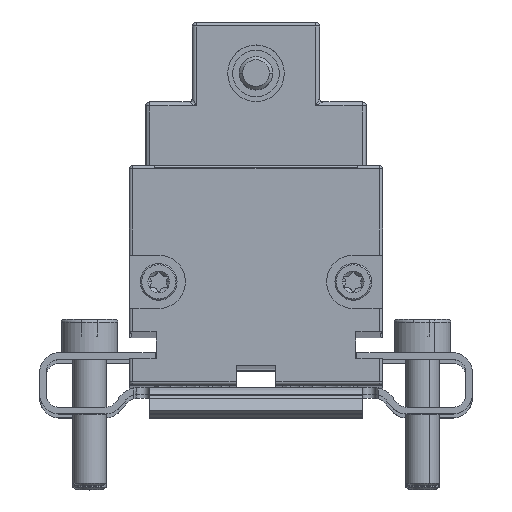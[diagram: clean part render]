
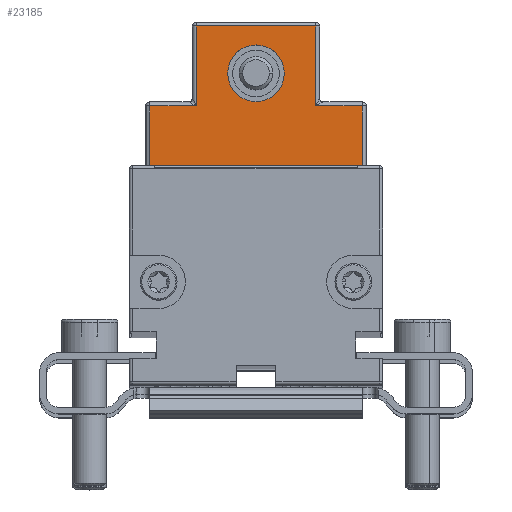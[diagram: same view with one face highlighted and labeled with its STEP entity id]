
A CAD part, top view. The second image highlights one B-rep face of the part: STEP entity #23185.
In plain terms, the highlighted planar face has unit normal (0, 0, 1).
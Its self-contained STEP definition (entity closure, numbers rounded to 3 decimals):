
#3613 = CARTESIAN_POINT ( 'NONE',  ( -15.95, 31.2, 104.1 ) ) ;
#3614 = DIRECTION ( 'NONE',  ( -1., 0., 0. ) ) ;
#3615 = VECTOR ( 'NONE', #3614, 1000. ) ;
#3616 = CARTESIAN_POINT ( 'NONE',  ( -15.95, 31.2, 104.1 ) ) ;
#3617 = LINE ( 'NONE', #3616, #3615 ) ;
#3619 = CARTESIAN_POINT ( 'NONE',  ( -9.75, 31.2, 104.1 ) ) ;
#3663 = CARTESIAN_POINT ( 'NONE',  ( 0., 51.75, 104.1 ) ) ;
#3664 = DIRECTION ( 'NONE',  ( 0., 1., 0. ) ) ;
#3665 = DIRECTION ( 'NONE',  ( 0., 0., 1. ) ) ;
#3666 = CARTESIAN_POINT ( 'NONE',  ( 0., 47.5, 104.1 ) ) ;
#3667 = AXIS2_PLACEMENT_3D ( 'NONE', #3666, #3665, #3664 ) ;
#3668 = CIRCLE ( 'NONE', #3667, 4.25 ) ;
#3670 = CARTESIAN_POINT ( 'NONE',  ( 0., 43.25, 104.1 ) ) ;
#5278 = DIRECTION ( 'NONE',  ( 0., -1., 0. ) ) ;
#5279 = VECTOR ( 'NONE', #5278, 1000. ) ;
#5280 = CARTESIAN_POINT ( 'NONE',  ( -15.95, 31.3, 104.1 ) ) ;
#5281 = LINE ( 'NONE', #5280, #5279 ) ;
#5282 = CARTESIAN_POINT ( 'NONE',  ( -15.95, 42.6, 104.1 ) ) ;
#5283 = CARTESIAN_POINT ( 'NONE',  ( -8.95, 42.6, 104.1 ) ) ;
#5284 = DIRECTION ( 'NONE',  ( -1., 0., 0. ) ) ;
#5285 = VECTOR ( 'NONE', #5284, 1000. ) ;
#5286 = CARTESIAN_POINT ( 'NONE',  ( -16.55, 42.6, 104.1 ) ) ;
#5287 = LINE ( 'NONE', #5286, #5285 ) ;
#5293 = CARTESIAN_POINT ( 'NONE',  ( 8.95, 54.6, 104.1 ) ) ;
#5310 = FACE_OUTER_BOUND ( 'NONE', #23192, .T. ) ;
#5311 = FACE_BOUND ( 'NONE', #23187, .T. ) ;
#5328 = CARTESIAN_POINT ( 'NONE',  ( 9.75, 31., 104.1 ) ) ;
#5329 = DIRECTION ( 'NONE',  ( -1., 0., 0. ) ) ;
#5330 = VECTOR ( 'NONE', #5329, 1000. ) ;
#5331 = CARTESIAN_POINT ( 'NONE',  ( 9.75, 31., 104.1 ) ) ;
#5332 = LINE ( 'NONE', #5331, #5330 ) ;
#5333 = CARTESIAN_POINT ( 'NONE',  ( -9.75, 31., 104.1 ) ) ;
#5334 = DIRECTION ( 'NONE',  ( 0., 1., 0. ) ) ;
#5335 = VECTOR ( 'NONE', #5334, 1000. ) ;
#5336 = CARTESIAN_POINT ( 'NONE',  ( -9.75, 31., 104.1 ) ) ;
#5337 = LINE ( 'NONE', #5336, #5335 ) ;
#5348 = DIRECTION ( 'NONE',  ( 0., 1., 0. ) ) ;
#5349 = DIRECTION ( 'NONE',  ( 0., 0., 1. ) ) ;
#5350 = AXIS2_PLACEMENT_3D ( 'NONE', #5356, #5349, #5348 ) ;
#5351 = CIRCLE ( 'NONE', #5350, 4.25 ) ;
#5352 = DIRECTION ( 'NONE',  ( 0., -1., 0. ) ) ;
#5353 = DIRECTION ( 'NONE',  ( 0., 0., -1. ) ) ;
#5354 = CARTESIAN_POINT ( 'NONE',  ( -15.25, 31.3, 104.1 ) ) ;
#5355 = AXIS2_PLACEMENT_3D ( 'NONE', #5354, #5353, #5352 ) ;
#5356 = CARTESIAN_POINT ( 'NONE',  ( 0., 47.5, 104.1 ) ) ;
#5357 = PLANE ( 'NONE',  #5355 ) ;
#5436 = DIRECTION ( 'NONE',  ( 0., -1., 0. ) ) ;
#5438 = VECTOR ( 'NONE', #5436, 1000. ) ;
#5439 = CARTESIAN_POINT ( 'NONE',  ( -8.95, 31.3, 104.1 ) ) ;
#5440 = LINE ( 'NONE', #5439, #5438 ) ;
#5442 = CARTESIAN_POINT ( 'NONE',  ( -8.95, 54.6, 104.1 ) ) ;
#5443 = DIRECTION ( 'NONE',  ( -1., 0., 0. ) ) ;
#5444 = VECTOR ( 'NONE', #5443, 1000. ) ;
#5445 = CARTESIAN_POINT ( 'NONE',  ( -15.25, 54.6, 104.1 ) ) ;
#5450 = LINE ( 'NONE', #5445, #5444 ) ;
#5484 = DIRECTION ( 'NONE',  ( 0., 1., 0. ) ) ;
#5485 = VECTOR ( 'NONE', #5484, 1000. ) ;
#5486 = CARTESIAN_POINT ( 'NONE',  ( 8.95, 55.2, 104.1 ) ) ;
#5487 = LINE ( 'NONE', #5486, #5485 ) ;
#5488 = CARTESIAN_POINT ( 'NONE',  ( 8.95, 42.6, 104.1 ) ) ;
#5489 = DIRECTION ( 'NONE',  ( -1., 0., 0. ) ) ;
#5490 = VECTOR ( 'NONE', #5489, 1000. ) ;
#5491 = CARTESIAN_POINT ( 'NONE',  ( -15.25, 42.6, 104.1 ) ) ;
#5492 = LINE ( 'NONE', #5491, #5490 ) ;
#5493 = CARTESIAN_POINT ( 'NONE',  ( 15.95, 42.6, 104.1 ) ) ;
#5494 = DIRECTION ( 'NONE',  ( 0., 1., 0. ) ) ;
#5495 = VECTOR ( 'NONE', #5494, 1000. ) ;
#5496 = CARTESIAN_POINT ( 'NONE',  ( 15.95, 31.3, 104.1 ) ) ;
#5497 = LINE ( 'NONE', #5496, #5495 ) ;
#5498 = CARTESIAN_POINT ( 'NONE',  ( 15.95, 31.2, 104.1 ) ) ;
#5499 = DIRECTION ( 'NONE',  ( -1., 0., 0. ) ) ;
#5500 = VECTOR ( 'NONE', #5499, 1000. ) ;
#5501 = CARTESIAN_POINT ( 'NONE',  ( -15.95, 31.2, 104.1 ) ) ;
#5502 = LINE ( 'NONE', #5501, #5500 ) ;
#5503 = CARTESIAN_POINT ( 'NONE',  ( 9.75, 31.2, 104.1 ) ) ;
#5504 = DIRECTION ( 'NONE',  ( 0., 1., 0. ) ) ;
#5505 = VECTOR ( 'NONE', #5504, 1000. ) ;
#5506 = CARTESIAN_POINT ( 'NONE',  ( 9.75, 31., 104.1 ) ) ;
#5507 = LINE ( 'NONE', #5506, #5505 ) ;
#22202 = VERTEX_POINT ( 'NONE', #3619 ) ;
#22206 = EDGE_CURVE ( 'NONE', #22202, #22207, #3617, .T. ) ;
#22207 = VERTEX_POINT ( 'NONE', #3613 ) ;
#22233 = VERTEX_POINT ( 'NONE', #3670 ) ;
#22238 = EDGE_CURVE ( 'NONE', #22233, #22240, #3668, .T. ) ;
#22240 = VERTEX_POINT ( 'NONE', #3663 ) ;
#23141 = VERTEX_POINT ( 'NONE', #5293 ) ;
#23142 = ORIENTED_EDGE ( 'NONE', *, *, #23238, .T. ) ;
#23144 = ORIENTED_EDGE ( 'NONE', *, *, #23145, .T. ) ;
#23145 = EDGE_CURVE ( 'NONE', #23147, #23148, #5287, .T. ) ;
#23147 = VERTEX_POINT ( 'NONE', #5283 ) ;
#23148 = VERTEX_POINT ( 'NONE', #5282 ) ;
#23149 = ORIENTED_EDGE ( 'NONE', *, *, #23150, .T. ) ;
#23150 = EDGE_CURVE ( 'NONE', #23148, #22207, #5281, .T. ) ;
#23152 = ORIENTED_EDGE ( 'NONE', *, *, #22206, .F. ) ;
#23153 = ORIENTED_EDGE ( 'NONE', *, *, #23154, .F. ) ;
#23154 = EDGE_CURVE ( 'NONE', #23155, #22202, #5337, .T. ) ;
#23155 = VERTEX_POINT ( 'NONE', #5333 ) ;
#23157 = ORIENTED_EDGE ( 'NONE', *, *, #23158, .F. ) ;
#23158 = EDGE_CURVE ( 'NONE', #23159, #23155, #5332, .T. ) ;
#23159 = VERTEX_POINT ( 'NONE', #5328 ) ;
#23161 = ORIENTED_EDGE ( 'NONE', *, *, #23271, .T. ) ;
#23185 = ADVANCED_FACE ( 'NONE', ( #5311, #5310 ), #5357, .F. ) ;
#23187 = EDGE_LOOP ( 'NONE', ( #23188, #23190 ) ) ;
#23188 = ORIENTED_EDGE ( 'NONE', *, *, #23189, .F. ) ;
#23189 = EDGE_CURVE ( 'NONE', #22240, #22233, #5351, .T. ) ;
#23190 = ORIENTED_EDGE ( 'NONE', *, *, #22238, .F. ) ;
#23192 = EDGE_LOOP ( 'NONE', ( #23144, #23149, #23152, #23153, #23157, #23161, #23274, #23278, #23282, #23288, #23142, #23242 ) ) ;
#23238 = EDGE_CURVE ( 'NONE', #23141, #23240, #5450, .T. ) ;
#23240 = VERTEX_POINT ( 'NONE', #5442 ) ;
#23242 = ORIENTED_EDGE ( 'NONE', *, *, #23244, .T. ) ;
#23244 = EDGE_CURVE ( 'NONE', #23240, #23147, #5440, .T. ) ;
#23271 = EDGE_CURVE ( 'NONE', #23159, #23273, #5507, .T. ) ;
#23273 = VERTEX_POINT ( 'NONE', #5503 ) ;
#23274 = ORIENTED_EDGE ( 'NONE', *, *, #23275, .F. ) ;
#23275 = EDGE_CURVE ( 'NONE', #23276, #23273, #5502, .T. ) ;
#23276 = VERTEX_POINT ( 'NONE', #5498 ) ;
#23278 = ORIENTED_EDGE ( 'NONE', *, *, #23279, .T. ) ;
#23279 = EDGE_CURVE ( 'NONE', #23276, #23280, #5497, .T. ) ;
#23280 = VERTEX_POINT ( 'NONE', #5493 ) ;
#23282 = ORIENTED_EDGE ( 'NONE', *, *, #23283, .T. ) ;
#23283 = EDGE_CURVE ( 'NONE', #23280, #23286, #5492, .T. ) ;
#23286 = VERTEX_POINT ( 'NONE', #5488 ) ;
#23288 = ORIENTED_EDGE ( 'NONE', *, *, #23291, .T. ) ;
#23291 = EDGE_CURVE ( 'NONE', #23286, #23141, #5487, .T. ) ;
